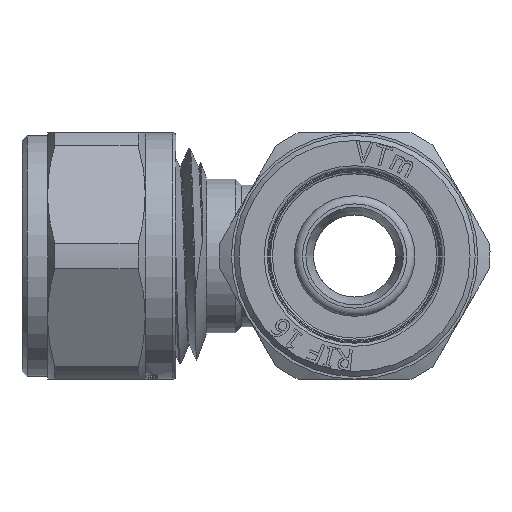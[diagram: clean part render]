
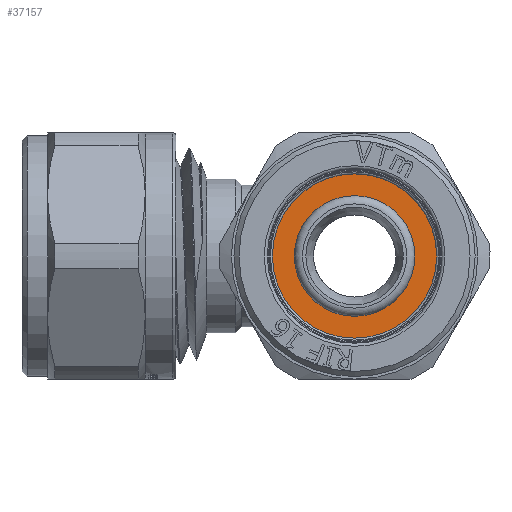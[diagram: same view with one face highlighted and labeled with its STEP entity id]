
A CAD part, left-side view. The second image highlights one B-rep face of the part: STEP entity #37157.
In plain terms, the highlighted planar face has unit normal (-1, 0, 0).
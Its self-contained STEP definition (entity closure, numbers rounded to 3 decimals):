
#1453=FACE_BOUND('',#6189,.T.);
#2039=PLANE('',#38957);
#4013=FACE_OUTER_BOUND('',#6188,.T.);
#6188=EDGE_LOOP('',(#34601,#34602));
#6189=EDGE_LOOP('',(#34603,#34604));
#7073=CIRCLE('',#38955,8.1);
#7074=CIRCLE('',#38956,8.1);
#7075=CIRCLE('',#38958,5.875);
#7076=CIRCLE('',#38959,5.875);
#17914=VERTEX_POINT('',#86109);
#17915=VERTEX_POINT('',#86111);
#17916=VERTEX_POINT('',#86115);
#17917=VERTEX_POINT('',#86116);
#23516=EDGE_CURVE('',#17915,#17914,#7073,.T.);
#23517=EDGE_CURVE('',#17914,#17915,#7074,.T.);
#23518=EDGE_CURVE('',#17916,#17917,#7075,.T.);
#23519=EDGE_CURVE('',#17917,#17916,#7076,.T.);
#34601=ORIENTED_EDGE('',*,*,#23516,.T.);
#34602=ORIENTED_EDGE('',*,*,#23517,.T.);
#34603=ORIENTED_EDGE('',*,*,#23518,.F.);
#34604=ORIENTED_EDGE('',*,*,#23519,.F.);
#37157=ADVANCED_FACE('',(#4013,#1453),#2039,.T.);
#38955=AXIS2_PLACEMENT_3D('',#86112,#44957,#44958);
#38956=AXIS2_PLACEMENT_3D('',#86113,#44959,#44960);
#38957=AXIS2_PLACEMENT_3D('',#86114,#44961,#44962);
#38958=AXIS2_PLACEMENT_3D('',#86117,#44963,#44964);
#38959=AXIS2_PLACEMENT_3D('',#86118,#44965,#44966);
#44957=DIRECTION('center_axis',(-1.,0.,0.));
#44958=DIRECTION('ref_axis',(0.,0.,1.));
#44959=DIRECTION('center_axis',(-1.,0.,0.));
#44960=DIRECTION('ref_axis',(0.,0.,1.));
#44961=DIRECTION('center_axis',(-1.,0.,0.));
#44962=DIRECTION('ref_axis',(0.,0.,1.));
#44963=DIRECTION('center_axis',(-1.,0.,0.));
#44964=DIRECTION('ref_axis',(0.,0.,1.));
#44965=DIRECTION('center_axis',(-1.,0.,0.));
#44966=DIRECTION('ref_axis',(0.,0.,1.));
#86109=CARTESIAN_POINT('',(-16.5,8.1,0.));
#86111=CARTESIAN_POINT('',(-16.5,-8.1,0.));
#86112=CARTESIAN_POINT('Origin',(-16.5,0.,0.));
#86113=CARTESIAN_POINT('Origin',(-16.5,0.,0.));
#86114=CARTESIAN_POINT('Origin',(-16.5,-5.875,0.));
#86115=CARTESIAN_POINT('',(-16.5,-5.875,0.));
#86116=CARTESIAN_POINT('',(-16.5,5.875,0.));
#86117=CARTESIAN_POINT('Origin',(-16.5,0.,0.));
#86118=CARTESIAN_POINT('Origin',(-16.5,0.,0.));
